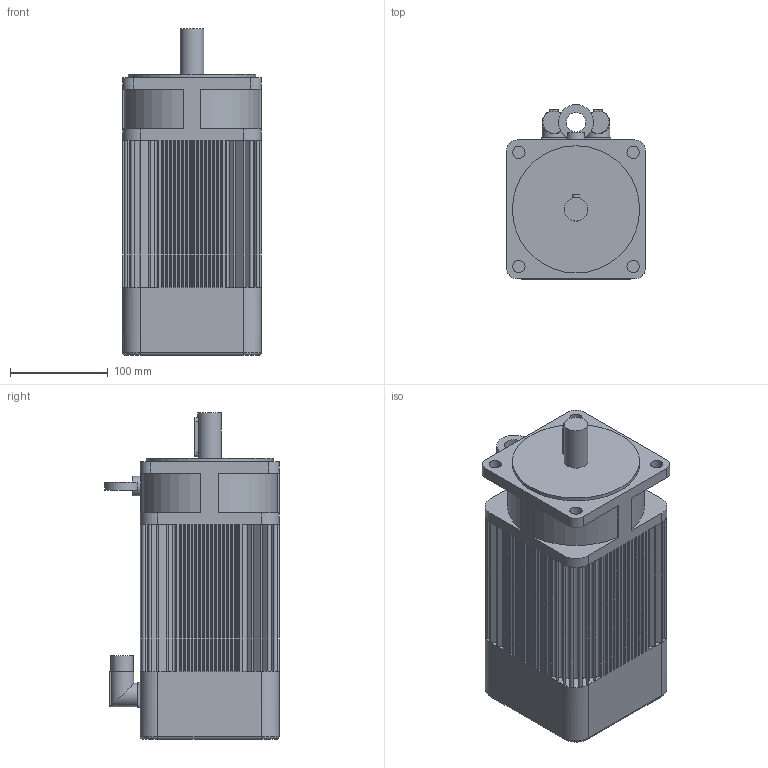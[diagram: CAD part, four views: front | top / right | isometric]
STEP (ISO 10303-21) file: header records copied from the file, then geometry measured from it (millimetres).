
FILE_DESCRIPTION(/* description */ (''),/* implementation_level */ '2;1');
FILE_NAME(/* name */ '\\Lafnas01\disegni\Archivi Lafert\3D\CAD 3D\MODELLI\Assiemi clienti\Serad\Modelli 3D Serad\B71I\Resolver\Res Without Brake\B7116Ixx6A052033.ipt.stp',/* time_stamp */ '2015-09-07T10:52:06+02:00',/* author */ ('Pastrello Ylenia'),/* organization */ (''),/* preprocessor_version */ 'ST-DEVELOPER v15.6',/* originating_system */ 'Autodesk Inventor 2015',/* authorisation */ '');
FILE_SCHEMA (('AUTOMOTIVE_DESIGN { 1 0 10303 214 3 1 1 }'));
Length unit declared in the file: millimetre
Products named in the file (1): B7116Ixx6A052033
Bounding box: 142 x 178 x 333.5 mm (x, y, z)
Volume: 5350139.9 mm3; surface area: 295577.5 mm2
Topology: 1 solids, 1 shells, 547 faces, 1378 edges, 903 vertices
Faces by surface type: plane 430, cylinder 113, torus 4
Full cylindrical faces by diameter (mm): 12.5 x4, 20 x2, 22.7 x2, 24 x3, 130 x1
Entity records: 16305 total; most frequent: CARTESIAN_POINT 2863, DIRECTION 2786, ORIENTED_EDGE 2724, EDGE_CURVE 1362, LINE 1026, VECTOR 1026, VERTEX_POINT 900, AXIS2_PLACEMENT_3D 880
